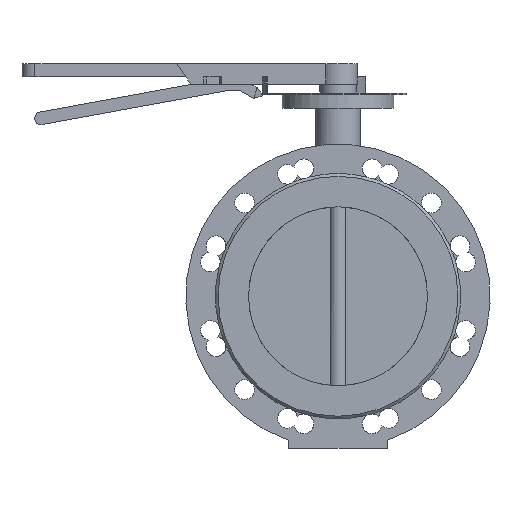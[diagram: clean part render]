
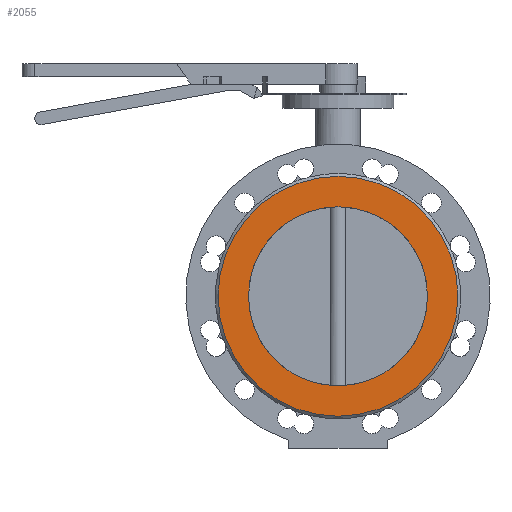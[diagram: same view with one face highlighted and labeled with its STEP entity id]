
A CAD part, front view. The second image highlights one B-rep face of the part: STEP entity #2055.
In plain terms, the highlighted planar face has unit normal (0, -1, 0).
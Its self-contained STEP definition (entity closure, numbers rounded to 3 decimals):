
#2055=ADVANCED_FACE('',(#3816,#3818),#3820,.T.);
#3816=FACE_BOUND('',#3817,.T.);
#3817=EDGE_LOOP('',(#5224));
#3818=FACE_BOUND('',#3819,.T.);
#3819=EDGE_LOOP('',(#5225));
#3820=PLANE('',#3821);
#3821=AXIS2_PLACEMENT_3D('',#3822,#3823,#3824);
#3822=CARTESIAN_POINT('',(0.,-76.,0.));
#3823=DIRECTION('',(0.,-1.,0.));
#3824=DIRECTION('',(0.,0.,1.));
#5224=ORIENTED_EDGE('',*,*,#5901,.F.);
#5225=ORIENTED_EDGE('',*,*,#5924,.T.);
#5901=EDGE_CURVE('',#7026,#7026,#7027,.T.);
#5924=EDGE_CURVE('',#7052,#7052,#7053,.T.);
#7026=VERTEX_POINT('',#11343);
#7027=CIRCLE('',#11344,134.);
#7052=VERTEX_POINT('',#11438);
#7053=CIRCLE('',#11439,100.);
#11343=CARTESIAN_POINT('',(0.,-76.,134.));
#11344=AXIS2_PLACEMENT_3D('',#11345,#11346,#11347);
#11345=CARTESIAN_POINT('',(0.,-76.,0.));
#11346=DIRECTION('',(0.,1.,0.));
#11347=DIRECTION('',(0.,0.,1.));
#11438=CARTESIAN_POINT('',(0.,-76.,100.));
#11439=AXIS2_PLACEMENT_3D('',#11440,#11441,#11442);
#11440=CARTESIAN_POINT('',(0.,-76.,0.));
#11441=DIRECTION('',(0.,1.,0.));
#11442=DIRECTION('',(0.,0.,1.));
